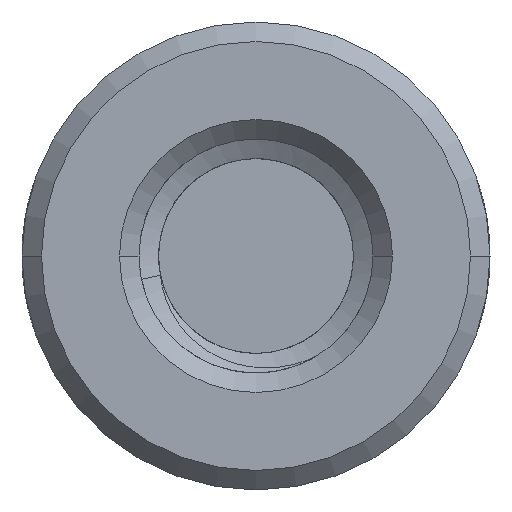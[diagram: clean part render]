
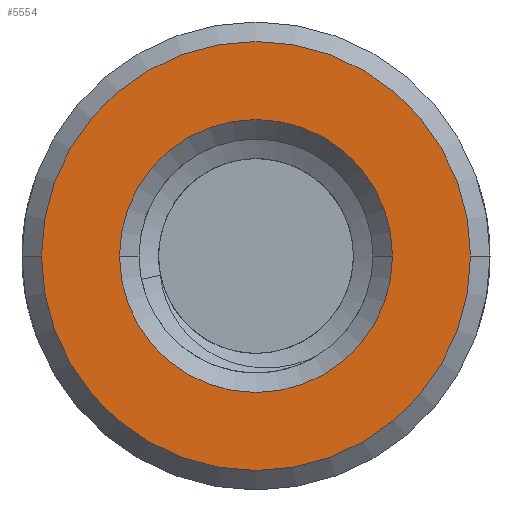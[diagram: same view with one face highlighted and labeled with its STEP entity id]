
A CAD part, front view. The second image highlights one B-rep face of the part: STEP entity #5554.
In plain terms, the highlighted planar face has unit normal (0, -1, 0).
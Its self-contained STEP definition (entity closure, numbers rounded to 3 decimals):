
#1=CARTESIAN_POINT('',(0.,0.,0.));
#2=DIRECTION('',(0.,1.,0.));
#3=DIRECTION('',(-1.,0.,0.));
#4=AXIS2_PLACEMENT_3D('',#1,#2,#3);
#6=CARTESIAN_POINT('',(0.,0.,0.));
#7=DIRECTION('',(0.,1.,0.));
#8=DIRECTION('',(1.,0.,0.));
#9=AXIS2_PLACEMENT_3D('',#6,#7,#8);
#11=CARTESIAN_POINT('',(0.,0.,0.));
#12=DIRECTION('',(0.,-1.,0.));
#13=DIRECTION('',(-1.,0.,0.));
#14=AXIS2_PLACEMENT_3D('',#11,#12,#13);
#16=CARTESIAN_POINT('',(0.,0.,0.));
#17=DIRECTION('',(0.,-1.,0.));
#18=DIRECTION('',(1.,0.,0.));
#19=AXIS2_PLACEMENT_3D('',#16,#17,#18);
#5521=CARTESIAN_POINT('',(-3.5,0.,0.));
#5522=CARTESIAN_POINT('',(3.5,0.,0.));
#5523=VERTEX_POINT('',#5521);
#5524=VERTEX_POINT('',#5522);
#5529=CARTESIAN_POINT('',(-5.5,0.,0.));
#5530=CARTESIAN_POINT('',(5.5,0.,0.));
#5531=VERTEX_POINT('',#5529);
#5532=VERTEX_POINT('',#5530);
#5537=CARTESIAN_POINT('',(0.,0.,0.));
#5538=DIRECTION('',(0.,1.,0.));
#5539=DIRECTION('',(1.,0.,0.));
#5540=AXIS2_PLACEMENT_3D('',#5537,#5538,#5539);
#5541=PLANE('',#5540);
#5543=ORIENTED_EDGE('',*,*,#5542,.F.);
#5545=ORIENTED_EDGE('',*,*,#5544,.F.);
#5546=EDGE_LOOP('',(#5543,#5545));
#5547=FACE_OUTER_BOUND('',#5546,.F.);
#5549=ORIENTED_EDGE('',*,*,#5548,.F.);
#5551=ORIENTED_EDGE('',*,*,#5550,.F.);
#5552=EDGE_LOOP('',(#5549,#5551));
#5553=FACE_BOUND('',#5552,.F.);
#5554=ADVANCED_FACE('',(#5547,#5553),#5541,.F.);
#5=CIRCLE('',#4,3.5);
#10=CIRCLE('',#9,3.5);
#15=CIRCLE('',#14,5.5);
#20=CIRCLE('',#19,5.5);
#5542=EDGE_CURVE('',#5531,#5532,#15,.T.);
#5544=EDGE_CURVE('',#5532,#5531,#20,.T.);
#5548=EDGE_CURVE('',#5523,#5524,#5,.T.);
#5550=EDGE_CURVE('',#5524,#5523,#10,.T.);
